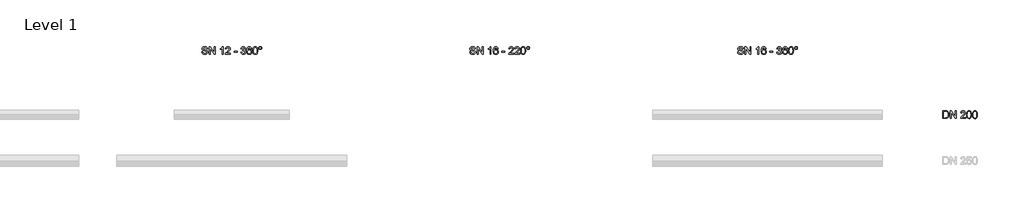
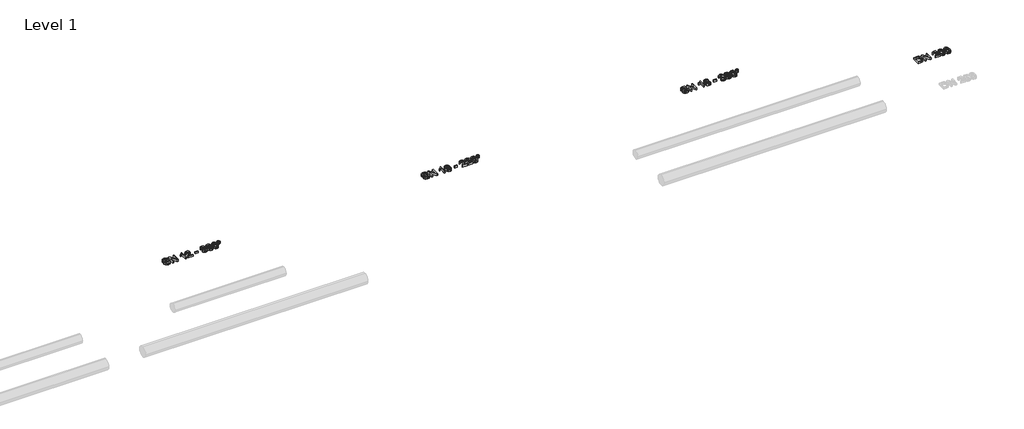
# One storey, part 10 of 10: 4 proxies.
"""IFC4 building model written with IfcOpenShell, lengths in millimetres."""

import ifcopenshell
import ifcopenshell.guid

model = None  # the IFC model being written
_history = None  # IfcOwnerHistory: only IFC2X3 demands one
_inside = {}  # id of a spatial element -> (the spatial element, [elements in it])
_under = {}  # id of a project, library or spatial element -> (it, [spatial elements below it])
_declared = {}  # id of a project -> (the project, [libraries it declares])
_typed = {}  # id of a type object -> (the type object, [elements of that type])
_made_of = {}  # id of a material, layer set ... -> (it, [elements and type objects made of it])


def new_model(schema):
    """Start an empty IFC model of exactly this schema.

    Asked for "IFC4X3", IfcOpenShell would pick the latest addendum, in which some entities
    have other attributes; the version numbers below select the first issue.
    IFC2X3 requires an IfcOwnerHistory on every rooted entity: one is made here for all.
    """
    global model, _history
    if schema == "IFC4X3":
        model = ifcopenshell.file(schema_version=(4, 3, 0, 0))
    else:
        model = ifcopenshell.file(schema=schema)
    _inside.clear()
    _under.clear()
    _declared.clear()
    _typed.clear()
    _made_of.clear()
    _history = None
    if model.schema == "IFC2X3":
        org = make("IfcOrganization", Name="unknown")
        user = make(
            "IfcPersonAndOrganization",
            ThePerson=make("IfcPerson", FamilyName="unknown"),
            TheOrganization=org,
        )
        app = make(
            "IfcApplication",
            ApplicationDeveloper=org,
            Version="unknown",
            ApplicationFullName="unknown",
            ApplicationIdentifier="unknown",
        )
        _history = make(
            "IfcOwnerHistory",
            OwningUser=user,
            OwningApplication=app,
            ChangeAction="ADDED",
            CreationDate=0,
        )
    return model


def make(cls, **values):
    """One entity of the class cls with the attributes given. An attribute that is None is left unset."""
    return model.create_entity(
        cls, **{name: value for name, value in values.items() if value is not None}
    )


def rooted(cls, **values):
    """An entity with a GlobalId (a new one), such as an element, a storey or a relation."""
    return make(cls, GlobalId=ifcopenshell.guid.new(), OwnerHistory=_history, **values)


def si_unit(unit_type, name, prefix=None):
    """IfcSIUnit, for example si_unit("LENGTHUNIT", "METRE", prefix="MILLI")."""
    return make("IfcSIUnit", UnitType=unit_type, Prefix=prefix, Name=name)


def assignment(units):
    """IfcUnitAssignment: the units of a project."""
    return None if units is None else make("IfcUnitAssignment", Units=units)


def point(xyz):
    """IfcCartesianPoint."""
    return None if xyz is None else make("IfcCartesianPoint", Coordinates=xyz)


def direction(xyz):
    """IfcDirection."""
    return None if xyz is None else make("IfcDirection", DirectionRatios=xyz)


def frame(location, z_axis=None, x_axis=None):
    """IfcAxis2Placement3D, a coordinate frame: its origin and axes. An axis left out is left unset."""
    return make(
        "IfcAxis2Placement3D",
        Location=point(location),
        Axis=direction(z_axis),
        RefDirection=direction(x_axis),
    )


def origin():
    """The frame at (0, 0, 0) with its axes left unset."""
    return frame((0.0, 0.0, 0.0))


def origin_with_axes():
    """The frame at (0, 0, 0) with the z axis (0, 0, 1) and the x axis (1, 0, 0) written out."""
    return frame((0.0, 0.0, 0.0), z_axis=(0.0, 0.0, 1.0), x_axis=(1.0, 0.0, 0.0))


def place(relative_to, where):
    """IfcLocalPlacement: puts the frame where relative to a parent placement (None: the world)."""
    return make(
        "IfcLocalPlacement", PlacementRelTo=relative_to, RelativePlacement=where
    )


def context(
    kind, dimensions, precision=None, world=None, true_north=None, identifier=None
):
    """IfcGeometricRepresentationContext, for example the 3D "Model" context."""
    return make(
        "IfcGeometricRepresentationContext",
        ContextIdentifier=identifier,
        ContextType=kind,
        CoordinateSpaceDimension=dimensions,
        Precision=precision,
        WorldCoordinateSystem=world,
        TrueNorth=true_north,
    )


def project(units=None, contexts=None):
    """IfcProject with its units and contexts."""
    return rooted(
        "IfcProject",
        Name="project",
        RepresentationContexts=contexts,
        UnitsInContext=assignment(units),
    )


def spatial(cls, under=None, at=None, **own):
    """A site, building, storey or space (cls), placed at a placement, below another one or the project."""
    s = rooted(cls, ObjectPlacement=at, **own)
    if under is not None:
        _under.setdefault(under.id(), (under, []))[1].append(s)
    return s


def polyline(points):
    """IfcPolyline through the points."""
    return make("IfcPolyline", Points=[point(p) for p in points])


def outline(outer, holes=None, kind="AREA"):
    """IfcArbitraryClosedProfileDef: a profile drawn as a closed curve; with holes, ...WithVoids."""
    if holes is None:
        return make("IfcArbitraryClosedProfileDef", ProfileType=kind, OuterCurve=outer)
    return make(
        "IfcArbitraryProfileDefWithVoids",
        ProfileType=kind,
        OuterCurve=outer,
        InnerCurves=holes,
    )


def extrude(swept, where, along, depth):
    """IfcExtrudedAreaSolid: the profile swept, set in the frame where, extruded along a direction by depth."""
    return make(
        "IfcExtrudedAreaSolid",
        SweptArea=swept,
        Position=where,
        ExtrudedDirection=direction(along),
        Depth=depth,
    )


def shape(context_of_items, identifier, shape_type, items):
    """IfcShapeRepresentation: the items that make up one representation, for example the "Body"."""
    return make(
        "IfcShapeRepresentation",
        ContextOfItems=context_of_items,
        RepresentationIdentifier=identifier,
        RepresentationType=shape_type,
        Items=items,
    )


def made_of(thing, what):
    """Note that an element or type object is made of a material, layer set ...; save() writes the relation."""
    if what is not None:
        _made_of.setdefault(what.id(), (what, []))[1].append(thing)
    return thing


def element(
    cls,
    number,
    at=None,
    inside=None,
    cuts=None,
    type_object=None,
    material=None,
    context=None,
    identifier="Body",
    shape_type=None,
    held_by="IfcProductDefinitionShape",
    body=None,
    shapes=None,
    **own,
):
    """One element of the class cls, such as IfcWall. Its Tag is "e" and its number.

    at: its placement. inside: the storey or other place that contains it. cuts: it is an
    opening in that element (IfcRelVoidsElement). A single representation is given by context,
    identifier, shape_type and body (its items); several are given by shapes. held_by: the class
    of the entity that holds the representations. save() writes the other relations.
    """
    e = rooted(cls, Tag="e%d" % number, ObjectPlacement=at, **own)
    if body is not None:
        shapes = [shape(context, identifier, shape_type, body)]
    if shapes is not None:
        e.Representation = make(held_by, Representations=shapes)
    if inside is not None:
        _inside.setdefault(inside.id(), (inside, []))[1].append(e)
    if cuts is not None:
        rooted(
            "IfcRelVoidsElement", RelatingBuildingElement=cuts, RelatedOpeningElement=e
        )
    if type_object is not None:
        _typed.setdefault(type_object.id(), (type_object, []))[1].append(e)
    return made_of(e, material)


def aggregate(whole, parts):
    """IfcRelAggregates: a whole, such as a stair, and the parts it consists of."""
    return rooted("IfcRelAggregates", RelatingObject=whole, RelatedObjects=parts)


def save(model, path):
    """Write the relations noted so far, then the file.

    IfcRelAggregates (storeys below a building ...), IfcRelContainedInSpatialStructure (elements
    in a storey), IfcRelDefinesByType, IfcRelAssociatesMaterial and IfcRelDeclares: one each for
    every whole, place, type object, material and project.
    """
    for whole, parts in _under.values():
        aggregate(whole, parts)
    for where, things in _inside.values():
        rooted(
            "IfcRelContainedInSpatialStructure",
            RelatedElements=things,
            RelatingStructure=where,
        )
    for kind, things in _typed.values():
        rooted("IfcRelDefinesByType", RelatedObjects=things, RelatingType=kind)
    for what, things in _made_of.values():
        rooted("IfcRelAssociatesMaterial", RelatedObjects=things, RelatingMaterial=what)
    for by, libraries in _declared.values():
        rooted("IfcRelDeclares", RelatingContext=by, RelatedDefinitions=libraries)
    model.write(path)


model = new_model("IFC4")

# Units and contexts
model_context = context("Model", 3, world=origin())
ifc_project = project(units=[si_unit("LENGTHUNIT", "METRE", prefix="MILLI")], contexts=[model_context])

# Site, building, storey
site = spatial("IfcSite", under=ifc_project)
building = spatial("IfcBuilding", under=site)
storey = spatial("IfcBuildingStorey", under=building, Name="Level 1", Elevation=0.0)

# Proxies
placement = place(None, origin())
element("IfcBuildingElementProxy", 1, Name="200mm Arial", ObjectType="200mm Arial", at=placement, inside=storey, context=model_context, shape_type="SweptSolid", body=[
    extrude(outline(polyline([(62180.9483219, 2231.0128426), (62206.0623994, 2231.0128426), (62214.1558033, 2205.8742396), (62222.2859954, 2196.983758), (62233.9233292, 2189.9817374), (62248.1480997, 2185.4383947), (62264.0406019, 2183.9239472), (62290.2828509, 2188.5102094), (62307.2299481, 2201.1162991), (62312.797229, 2217.9652945), (62308.6278997, 2233.6370675), (62302.2758039, 2239.8358791), (62291.5581751, 2245.0414093), (62254.9907048, 2254.6308667), (62215.6273313, 2267.0162272), (62203.1254748, 2275.4652503), (62194.2656501, 2285.7046325), (62188.9865435, 2297.5136446), (62187.2268413, 2310.6715573), (62189.4034764, 2325.3807057), (62195.9333818, 2339.0965728), (62206.6448793, 2350.7216438), (62221.3662904, 2359.1584042), (62239.0368889, 2364.2903581), (62258.5959483, 2366.0010093), (62279.7859513, 2364.2106503), (62298.3272038, 2358.8395732), (62313.5575184, 2349.9981425), (62324.8147075, 2337.796723), (62331.9393554, 2322.9956041), (62334.7720468, 2306.3550752), (62309.6579693, 2306.3550752), (62305.0471816, 2321.3401351), (62295.4331988, 2332.1558658), (62280.4113507, 2338.7041653), (62259.576967, 2340.8869318), (62238.252074, 2338.7286908), (62223.6226333, 2332.2539676), (62215.1613474, 2322.725824), (62212.3409188, 2311.4073212), (62214.3397443, 2301.7565502), (62220.3362208, 2293.9942401), (62234.5119404, 2287.0535332), (62261.3428006, 2279.9656734), (62305.7829456, 2267.3595837), (62320.0996866, 2258.2483729), (62330.0876827, 2247.0034466), (62335.9554006, 2233.7474321), (62337.9113065, 2218.6029566), (62335.661095, 2203.121256), (62328.9104604, 2188.5592603), (62317.9353142, 2176.026747), (62303.0115679, 2166.6334934), (62285.0650579, 2160.7657756), (62265.0216205, 2158.8098696), (62240.4164464, 2160.9190598), (62220.1645426, 2167.2466301), (62204.0329171, 2177.8171061), (62191.788578, 2192.6550132), (62183.9281661, 2210.7302819), (62180.9483219, 2231.0128426)])), origin_with_axes(), (0.0, 0.0, 1.0), 50.0),
    extrude(outline(polyline([(62375.5824228, 2161.9491293), (62375.5824228, 2362.8617496), (62402.4623339, 2362.8617496), (62507.4313299, 2203.6914731), (62507.4313299, 2362.8617496), (62532.5454074, 2362.8617496), (62532.5454074, 2161.9491293), (62505.6654963, 2161.9491293), (62400.6965003, 2321.1684569), (62400.6965003, 2161.9491293), (62375.5824228, 2161.9491293)])), origin_with_axes(), (0.0, 0.0, 1.0), 50.0),
    extrude(outline(polyline([(62739.7365471, 2161.9491293), (62714.6224696, 2161.9491293), (62714.6224696, 2318.5197065), (62690.8327672, 2301.5726092), (62664.3943145, 2288.8929431), (62664.3943145, 2312.6335946), (62701.2070395, 2336.1289913), (62714.6776519, 2349.7038369), (62723.5497393, 2362.8617496), (62739.7365471, 2362.8617496), (62739.7365471, 2161.9491293)])), origin_with_axes(), (0.0, 0.0, 1.0), 50.0),
    extrude(outline(polyline([(62928.0921286, 2187.0632069), (62928.0921286, 2161.9491293), (62796.2432216, 2161.9491293), (62798.9410229, 2179.2641086), (62814.1958629, 2205.9232905), (62845.6375108, 2235.0350191), (62888.9985353, 2276.8754646), (62897.1287274, 2291.2964388), (62899.8387914, 2305.3250056), (62897.2820115, 2317.9004385), (62889.6116719, 2328.3544185), (62877.821054, 2335.3993587), (62862.9034391, 2337.7476721), (62847.2377975, 2335.454541), (62835.0670348, 2328.5751477), (62827.2127542, 2317.6490524), (62824.4965588, 2303.2158155), (62799.3824813, 2306.3550752), (62805.4709283, 2330.6475496), (62818.6349723, 2348.3917245), (62838.1879004, 2359.2442434), (62863.4429993, 2362.8617496), (62888.8820393, 2358.8395732), (62908.3981792, 2346.7730437), (62920.8141965, 2328.746826), (62924.9528689, 2306.8455845), (62920.4892341, 2283.0313567), (62905.6513269, 2258.4077885), (62869.6724678, 2223.9985592), (62840.7814684, 2199.8409748), (62829.450703, 2187.0632069), (62928.0921286, 2187.0632069)])), origin_with_axes(), (0.0, 0.0, 1.0), 50.0),
    extrude(outline(polyline([(63025.4091791, 2221.5950635), (63025.4091791, 2246.709141), (63103.8906714, 2246.709141), (63103.8906714, 2221.5950635), (63025.4091791, 2221.5950635)])), origin_with_axes(), (0.0, 0.0, 1.0), 50.0),
    extrude(outline(polyline([(63204.3469815, 2215.3165441), (63229.4610591, 2218.4558038), (63235.0835222, 2202.6736662), (63243.3179476, 2192.0173511), (63254.5690053, 2185.9472982), (63269.2413655, 2183.9239472), (63286.4582429, 2186.7075876), (63299.7510456, 2195.0585089), (63308.2491197, 2207.5174458), (63311.0818111, 2222.6251331), (63308.2736452, 2236.9663995), (63299.8491475, 2248.5976019), (63287.095905, 2256.3047297), (63271.3015047, 2258.8737723), (63253.6922198, 2256.1269201), (63256.488123, 2281.2409976), (63260.5102995, 2280.946692), (63275.5566731, 2282.7493138), (63289.0088914, 2288.1571792), (63298.5002468, 2297.3051781), (63301.664032, 2310.3282007), (63299.3709009, 2321.1745882), (63292.4915076, 2329.9730993), (63281.994608, 2335.8040289), (63268.848958, 2337.7476721), (63255.6787826, 2335.7856348), (63244.9121029, 2329.8995229), (63237.0516909, 2320.0893363), (63232.6003188, 2306.3550752), (63207.4862412, 2309.4943349), (63214.8806693, 2332.0455012), (63228.038582, 2348.8822338), (63246.0402743, 2359.3668707), (63267.9660412, 2362.8617496), (63283.7543102, 2361.1388356), (63298.2549922, 2355.9700936), (63310.4809372, 2347.815376), (63319.4449951, 2337.1345354), (63324.9448309, 2324.8288827), (63326.7781095, 2311.7997287), (63325.0368014, 2299.6596229), (63319.8128771, 2288.6476885), (63311.1799129, 2279.2666976), (63299.2114854, 2272.0194223), (63314.9323093, 2265.6673265), (63326.5819058, 2254.8515959), (63333.7923929, 2240.1608415), (63336.1958886, 2222.1836747), (63331.3888972, 2197.7072593), (63316.967923, 2177.2530203), (63295.2015716, 2163.4206573), (63268.3584487, 2158.8098696), (63244.078237, 2162.746207), (63224.3107111, 2174.555219), (63210.5641873, 2192.618225), (63204.3469815, 2215.3165441)])), origin_with_axes(), (0.0, 0.0, 1.0), 50.0),
    extrude(outline(polyline([(63486.8803538, 2309.4943349), (63461.7662763, 2306.3550752), (63452.2503954, 2327.2998234), (63440.8583162, 2335.1357099), (63427.0872669, 2337.7476721), (63404.425736, 2331.6653564), (63394.9895628, 2322.057505), (63387.282435, 2308.8321473), (63382.0769048, 2290.1253478), (63380.1455243, 2264.0731712), (63390.2193596, 2275.8270009), (63402.2920204, 2284.1104772), (63415.6890564, 2289.0217018), (63429.7360173, 2290.6587767), (63452.9371084, 2286.1828791), (63472.4103287, 2272.7551863), (63485.6172923, 2252.2396337), (63490.0196135, 2226.5001568), (63487.9472116, 2208.5168586), (63481.7300059, 2191.8456728), (63471.8830312, 2177.7067415), (63458.9213222, 2167.3202065), (63443.4334902, 2160.9374539), (63426.0081464, 2158.8098696), (63397.5156858, 2164.4507269), (63374.8234981, 2181.3732987), (63366.1644756, 2194.4821604), (63359.9794596, 2211.2453167), (63355.0314468, 2255.7345126), (63360.5251512, 2305.7542013), (63367.3922818, 2324.8319484), (63377.0062646, 2339.9549641), (63387.4265221, 2349.9766828), (63399.50838, 2357.1350532), (63428.6568967, 2362.8617496), (63450.6930282, 2359.3178198), (63468.3391013, 2348.6860301), (63480.6999363, 2331.8002465), (63486.8803538, 2309.4943349)]), holes=[polyline([(63380.1455243, 2226.8925642), (63385.9580598, 2205.1384756), (63401.4091036, 2189.3440752), (63424.0461091, 2183.9239472), (63440.6191929, 2186.7321131), (63453.6483469, 2195.1566108), (63462.0912387, 2208.4003626), (63464.905536, 2225.6662909), (63462.1280269, 2242.2393748), (63453.7954997, 2254.8761213), (63440.5456165, 2262.8775547), (63423.0160395, 2265.5446992), (63406.4674811, 2262.8775547), (63392.6289867, 2254.8761213), (63383.2663899, 2242.5459431), (63380.1455243, 2226.8925642)])]), origin_with_axes(), (0.0, 0.0, 1.0), 50.0),
    extrude(outline(polyline([(63511.9944314, 2260.7867587), (63513.8399727, 2292.9457765), (63519.3765967, 2318.5932829), (63528.5491212, 2338.1216855), (63541.3023637, 2351.9233917), (63557.7282947, 2360.1271601), (63577.9188849, 2362.8617496), (63593.3944542, 2361.2430689), (63607.2513427, 2356.3870265), (63618.8396255, 2348.483695), (63627.5093779, 2337.7231466), (63639.2816017, 2307.9982814), (63643.8433384, 2260.7867587), (63642.0161912, 2228.811682), (63636.5347495, 2203.2254892), (63627.4174074, 2183.6786925), (63614.682559, 2169.821804), (63598.2198397, 2161.5628532), (63577.9188849, 2158.8098696), (63551.8237887, 2163.5923356), (63532.0072119, 2177.9397334), (63523.2516204, 2193.0688805), (63516.9976265, 2211.919767), (63511.9944314, 2260.7867587)]), holes=[polyline([(63537.1085089, 2260.8358096), (63540.0515649, 2221.3314147), (63548.8807328, 2198.4675487), (63562.0263827, 2187.5598476), (63577.9188849, 2183.9239472), (63593.8113871, 2187.5721103), (63606.9570371, 2198.5165997), (63615.7862049, 2221.3927284), (63618.7292609, 2260.8358096), (63615.8843068, 2299.4511564), (63607.3494445, 2322.492832), (63594.22832, 2333.9339621), (63577.6245793, 2337.7476721), (63561.9037554, 2334.3876832), (63549.2731402, 2324.3077165), (63540.1496667, 2299.8313011), (63537.1085089, 2260.8358096)])]), origin_with_axes(), (0.0, 0.0, 1.0), 50.0),
    extrude(outline(polyline([(63672.0966757, 2328.378944), (63674.861922, 2342.8612318), (63683.157661, 2355.0136004), (63695.3284237, 2363.2541571), (63709.7187411, 2366.0010093), (63724.2746053, 2363.2541571), (63736.4514994, 2355.0136004), (63744.6920561, 2342.8612318), (63747.4389083, 2328.378944), (63744.673662, 2313.9150502), (63736.377923, 2301.719762), (63724.1826348, 2293.4240231), (63709.7187411, 2290.6587767), (63695.3284237, 2293.405629), (63683.157661, 2301.6461856), (63674.861922, 2313.8230797), (63672.0966757, 2328.378944)]), holes=[polyline([(63687.7929741, 2328.329893), (63689.4055236, 2319.8808699), (63694.2431718, 2312.7807474), (63701.3616884, 2307.9614932), (63709.8168429, 2306.3550752), (63718.198421, 2307.9614932), (63725.2924122, 2312.7807474), (63730.1300604, 2319.8808699), (63731.7426098, 2328.329893), (63730.1300604, 2336.7789162), (63725.2924122, 2343.8790387), (63718.198421, 2348.6982928), (63709.8168429, 2350.3047109), (63701.3616884, 2348.6982928), (63694.2431718, 2343.8790387), (63689.4055236, 2336.7789162), (63687.7929741, 2328.329893)])]), origin_with_axes(), (0.0, 0.0, 1.0), 50.0),
])
element("IfcBuildingElementProxy", 2, Name="200mm Arial", ObjectType="200mm Arial", at=placement, inside=storey, context=model_context, shape_type="SweptSolid", body=[
    extrude(outline(polyline([(69180.9483219, 2231.0128426), (69206.0623994, 2231.0128426), (69214.1558033, 2205.8742396), (69222.2859954, 2196.983758), (69233.9233292, 2189.9817374), (69248.1480997, 2185.4383947), (69264.0406019, 2183.9239472), (69290.2828509, 2188.5102094), (69307.2299481, 2201.1162991), (69312.797229, 2217.9652945), (69308.6278997, 2233.6370675), (69302.2758039, 2239.8358791), (69291.5581751, 2245.0414093), (69254.9907048, 2254.6308667), (69215.6273313, 2267.0162272), (69203.1254748, 2275.4652503), (69194.2656501, 2285.7046325), (69188.9865435, 2297.5136446), (69187.2268413, 2310.6715573), (69189.4034764, 2325.3807057), (69195.9333818, 2339.0965728), (69206.6448793, 2350.7216438), (69221.3662904, 2359.1584042), (69239.0368889, 2364.2903581), (69258.5959483, 2366.0010093), (69279.7859513, 2364.2106503), (69298.3272038, 2358.8395732), (69313.5575184, 2349.9981425), (69324.8147075, 2337.796723), (69331.9393554, 2322.9956041), (69334.7720468, 2306.3550752), (69309.6579693, 2306.3550752), (69305.0471816, 2321.3401351), (69295.4331988, 2332.1558658), (69280.4113507, 2338.7041653), (69259.576967, 2340.8869318), (69238.252074, 2338.7286908), (69223.6226333, 2332.2539676), (69215.1613474, 2322.725824), (69212.3409188, 2311.4073212), (69214.3397443, 2301.7565502), (69220.3362208, 2293.9942401), (69234.5119404, 2287.0535332), (69261.3428006, 2279.9656734), (69305.7829456, 2267.3595837), (69320.0996866, 2258.2483729), (69330.0876827, 2247.0034466), (69335.9554006, 2233.7474321), (69337.9113065, 2218.6029566), (69335.661095, 2203.121256), (69328.9104604, 2188.5592603), (69317.9353142, 2176.026747), (69303.0115679, 2166.6334934), (69285.0650579, 2160.7657756), (69265.0216205, 2158.8098696), (69240.4164464, 2160.9190598), (69220.1645426, 2167.2466301), (69204.0329171, 2177.8171061), (69191.788578, 2192.6550132), (69183.9281661, 2210.7302819), (69180.9483219, 2231.0128426)])), origin_with_axes(), (0.0, 0.0, 1.0), 50.0),
    extrude(outline(polyline([(69375.5824228, 2161.9491293), (69375.5824228, 2362.8617496), (69402.4623339, 2362.8617496), (69507.4313299, 2203.6914731), (69507.4313299, 2362.8617496), (69532.5454074, 2362.8617496), (69532.5454074, 2161.9491293), (69505.6654963, 2161.9491293), (69400.6965003, 2321.1684569), (69400.6965003, 2161.9491293), (69375.5824228, 2161.9491293)])), origin_with_axes(), (0.0, 0.0, 1.0), 50.0),
    extrude(outline(polyline([(69739.7365471, 2161.9491293), (69714.6224696, 2161.9491293), (69714.6224696, 2318.5197065), (69690.8327672, 2301.5726092), (69664.3943145, 2288.8929431), (69664.3943145, 2312.6335946), (69701.2070395, 2336.1289913), (69714.6776519, 2349.7038369), (69723.5497393, 2362.8617496), (69739.7365471, 2362.8617496), (69739.7365471, 2161.9491293)])), origin_with_axes(), (0.0, 0.0, 1.0), 50.0),
    extrude(outline(polyline([(69928.0921286, 2309.4943349), (69902.9780511, 2306.3550752), (69893.4621702, 2327.2998234), (69882.070091, 2335.1357099), (69868.2990417, 2337.7476721), (69845.6375108, 2331.6653564), (69836.2013376, 2322.057505), (69828.4942098, 2308.8321473), (69823.2886796, 2290.1253478), (69821.3572991, 2264.0731712), (69831.4311344, 2275.8270009), (69843.5037952, 2284.1104772), (69856.9008312, 2289.0217018), (69870.947792, 2290.6587767), (69894.1488832, 2286.1828791), (69913.6221035, 2272.7551863), (69926.8290671, 2252.2396337), (69931.2313883, 2226.5001568), (69929.1589864, 2208.5168586), (69922.9417807, 2191.8456728), (69913.094806, 2177.7067415), (69900.133097, 2167.3202065), (69884.645265, 2160.9374539), (69867.2199212, 2158.8098696), (69838.7274606, 2164.4507269), (69816.0352729, 2181.3732987), (69807.3762504, 2194.4821604), (69801.1912344, 2211.2453167), (69796.2432216, 2255.7345126), (69801.736926, 2305.7542013), (69808.6040566, 2324.8319484), (69818.2180394, 2339.9549641), (69828.6382969, 2349.9766828), (69840.7201548, 2357.1350532), (69869.8686715, 2362.8617496), (69891.904803, 2359.3178198), (69909.5508761, 2348.6860301), (69921.9117111, 2331.8002465), (69928.0921286, 2309.4943349)]), holes=[polyline([(69821.3572991, 2226.8925642), (69827.1698346, 2205.1384756), (69842.6208784, 2189.3440752), (69865.2578839, 2183.9239472), (69881.8309677, 2186.7321131), (69894.8601217, 2195.1566108), (69903.3030135, 2208.4003626), (69906.1173108, 2225.6662909), (69903.3398017, 2242.2393748), (69895.0072745, 2254.8761213), (69881.7573913, 2262.8775547), (69864.2278143, 2265.5446992), (69847.6792559, 2262.8775547), (69833.8407615, 2254.8761213), (69824.4781647, 2242.5459431), (69821.3572991, 2226.8925642)])]), origin_with_axes(), (0.0, 0.0, 1.0), 50.0),
    extrude(outline(polyline([(70025.4091791, 2221.5950635), (70025.4091791, 2246.709141), (70103.8906714, 2246.709141), (70103.8906714, 2221.5950635), (70025.4091791, 2221.5950635)])), origin_with_axes(), (0.0, 0.0, 1.0), 50.0),
    extrude(outline(polyline([(70333.0566289, 2187.0632069), (70333.0566289, 2161.9491293), (70201.2077219, 2161.9491293), (70203.9055231, 2179.2641086), (70219.1603632, 2205.9232905), (70250.6020111, 2235.0350191), (70293.9630356, 2276.8754646), (70302.0932277, 2291.2964388), (70304.8032917, 2305.3250056), (70302.2465118, 2317.9004385), (70294.5761722, 2328.3544185), (70282.7855543, 2335.3993587), (70267.8679394, 2337.7476721), (70252.2022977, 2335.454541), (70240.0315351, 2328.5751477), (70232.1772545, 2317.6490524), (70229.4610591, 2303.2158155), (70204.3469815, 2306.3550752), (70210.4354286, 2330.6475496), (70223.5994726, 2348.3917245), (70243.1524007, 2359.2442434), (70268.4074996, 2362.8617496), (70293.8465396, 2358.8395732), (70313.3626794, 2346.7730437), (70325.7786968, 2328.746826), (70329.9173692, 2306.8455845), (70325.4537344, 2283.0313567), (70310.6158272, 2258.4077885), (70274.6369681, 2223.9985592), (70245.7459687, 2199.8409748), (70234.4152033, 2187.0632069), (70333.0566289, 2187.0632069)])), origin_with_axes(), (0.0, 0.0, 1.0), 50.0),
    extrude(outline(polyline([(70486.8803538, 2187.0632069), (70486.8803538, 2161.9491293), (70355.0314468, 2161.9491293), (70357.7292481, 2179.2641086), (70372.9840881, 2205.9232905), (70404.425736, 2235.0350191), (70447.7867605, 2276.8754646), (70455.9169526, 2291.2964388), (70458.6270166, 2305.3250056), (70456.0702367, 2317.9004385), (70448.3998971, 2328.3544185), (70436.6092792, 2335.3993587), (70421.6916643, 2337.7476721), (70406.0260227, 2335.454541), (70393.85526, 2328.5751477), (70386.0009794, 2317.6490524), (70383.284784, 2303.2158155), (70358.1707065, 2306.3550752), (70364.2591535, 2330.6475496), (70377.4231975, 2348.3917245), (70396.9761256, 2359.2442434), (70422.2312246, 2362.8617496), (70447.6702645, 2358.8395732), (70467.1864044, 2346.7730437), (70479.6024217, 2328.746826), (70483.7410941, 2306.8455845), (70479.2774593, 2283.0313567), (70464.4395521, 2258.4077885), (70428.460693, 2223.9985592), (70399.5696937, 2199.8409748), (70388.2389282, 2187.0632069), (70486.8803538, 2187.0632069)])), origin_with_axes(), (0.0, 0.0, 1.0), 50.0),
    extrude(outline(polyline([(70511.9944314, 2260.7867587), (70513.8399727, 2292.9457765), (70519.3765967, 2318.5932829), (70528.5491212, 2338.1216855), (70541.3023637, 2351.9233917), (70557.7282947, 2360.1271601), (70577.9188849, 2362.8617496), (70593.3944542, 2361.2430689), (70607.2513427, 2356.3870265), (70618.8396255, 2348.483695), (70627.5093779, 2337.7231466), (70639.2816017, 2307.9982814), (70643.8433384, 2260.7867587), (70642.0161912, 2228.811682), (70636.5347495, 2203.2254892), (70627.4174074, 2183.6786925), (70614.682559, 2169.821804), (70598.2198397, 2161.5628532), (70577.9188849, 2158.8098696), (70551.8237887, 2163.5923356), (70532.0072119, 2177.9397334), (70523.2516204, 2193.0688805), (70516.9976265, 2211.919767), (70511.9944314, 2260.7867587)]), holes=[polyline([(70537.1085089, 2260.8358096), (70540.0515649, 2221.3314147), (70548.8807328, 2198.4675487), (70562.0263827, 2187.5598476), (70577.9188849, 2183.9239472), (70593.8113871, 2187.5721103), (70606.9570371, 2198.5165997), (70615.7862049, 2221.3927284), (70618.7292609, 2260.8358096), (70615.8843068, 2299.4511564), (70607.3494445, 2322.492832), (70594.22832, 2333.9339621), (70577.6245793, 2337.7476721), (70561.9037554, 2334.3876832), (70549.2731402, 2324.3077165), (70540.1496667, 2299.8313011), (70537.1085089, 2260.8358096)])]), origin_with_axes(), (0.0, 0.0, 1.0), 50.0),
    extrude(outline(polyline([(70672.0966757, 2328.378944), (70674.861922, 2342.8612318), (70683.157661, 2355.0136004), (70695.3284237, 2363.2541571), (70709.7187411, 2366.0010093), (70724.2746053, 2363.2541571), (70736.4514994, 2355.0136004), (70744.6920561, 2342.8612318), (70747.4389083, 2328.378944), (70744.673662, 2313.9150502), (70736.377923, 2301.719762), (70724.1826348, 2293.4240231), (70709.7187411, 2290.6587767), (70695.3284237, 2293.405629), (70683.157661, 2301.6461856), (70674.861922, 2313.8230797), (70672.0966757, 2328.378944)]), holes=[polyline([(70687.7929741, 2328.329893), (70689.4055236, 2319.8808699), (70694.2431718, 2312.7807474), (70701.3616884, 2307.9614932), (70709.8168429, 2306.3550752), (70718.198421, 2307.9614932), (70725.2924122, 2312.7807474), (70730.1300604, 2319.8808699), (70731.7426098, 2328.329893), (70730.1300604, 2336.7789162), (70725.2924122, 2343.8790387), (70718.198421, 2348.6982928), (70709.8168429, 2350.3047109), (70701.3616884, 2348.6982928), (70694.2431718, 2343.8790387), (70689.4055236, 2336.7789162), (70687.7929741, 2328.329893)])]), origin_with_axes(), (0.0, 0.0, 1.0), 50.0),
])
element("IfcBuildingElementProxy", 3, Name="200mm Arial", ObjectType="200mm Arial", at=placement, inside=storey, context=model_context, shape_type="SweptSolid", body=[
    extrude(outline(polyline([(76180.9483219, 2231.0128426), (76206.0623994, 2231.0128426), (76214.1558033, 2205.8742396), (76222.2859954, 2196.983758), (76233.9233292, 2189.9817374), (76248.1480997, 2185.4383947), (76264.0406019, 2183.9239472), (76290.2828509, 2188.5102094), (76307.2299481, 2201.1162991), (76312.797229, 2217.9652945), (76308.6278997, 2233.6370675), (76302.2758039, 2239.8358791), (76291.5581751, 2245.0414093), (76254.9907048, 2254.6308667), (76215.6273313, 2267.0162272), (76203.1254748, 2275.4652503), (76194.2656501, 2285.7046325), (76188.9865435, 2297.5136446), (76187.2268413, 2310.6715573), (76189.4034764, 2325.3807057), (76195.9333818, 2339.0965728), (76206.6448793, 2350.7216438), (76221.3662904, 2359.1584042), (76239.0368889, 2364.2903581), (76258.5959483, 2366.0010093), (76279.7859513, 2364.2106503), (76298.3272038, 2358.8395732), (76313.5575184, 2349.9981425), (76324.8147075, 2337.796723), (76331.9393554, 2322.9956041), (76334.7720468, 2306.3550752), (76309.6579693, 2306.3550752), (76305.0471816, 2321.3401351), (76295.4331988, 2332.1558658), (76280.4113507, 2338.7041653), (76259.576967, 2340.8869318), (76238.252074, 2338.7286908), (76223.6226333, 2332.2539676), (76215.1613474, 2322.725824), (76212.3409188, 2311.4073212), (76214.3397443, 2301.7565502), (76220.3362208, 2293.9942401), (76234.5119404, 2287.0535332), (76261.3428006, 2279.9656734), (76305.7829456, 2267.3595837), (76320.0996866, 2258.2483729), (76330.0876827, 2247.0034466), (76335.9554006, 2233.7474321), (76337.9113065, 2218.6029566), (76335.661095, 2203.121256), (76328.9104604, 2188.5592603), (76317.9353142, 2176.026747), (76303.0115679, 2166.6334934), (76285.0650579, 2160.7657756), (76265.0216205, 2158.8098696), (76240.4164464, 2160.9190598), (76220.1645426, 2167.2466301), (76204.0329171, 2177.8171061), (76191.788578, 2192.6550132), (76183.9281661, 2210.7302819), (76180.9483219, 2231.0128426)])), origin_with_axes(), (0.0, 0.0, 1.0), 50.0),
    extrude(outline(polyline([(76375.5824228, 2161.9491293), (76375.5824228, 2362.8617496), (76402.4623339, 2362.8617496), (76507.4313299, 2203.6914731), (76507.4313299, 2362.8617496), (76532.5454074, 2362.8617496), (76532.5454074, 2161.9491293), (76505.6654963, 2161.9491293), (76400.6965003, 2321.1684569), (76400.6965003, 2161.9491293), (76375.5824228, 2161.9491293)])), origin_with_axes(), (0.0, 0.0, 1.0), 50.0),
    extrude(outline(polyline([(76739.7365471, 2161.9491293), (76714.6224696, 2161.9491293), (76714.6224696, 2318.5197065), (76690.8327672, 2301.5726092), (76664.3943145, 2288.8929431), (76664.3943145, 2312.6335946), (76701.2070395, 2336.1289913), (76714.6776519, 2349.7038369), (76723.5497393, 2362.8617496), (76739.7365471, 2362.8617496), (76739.7365471, 2161.9491293)])), origin_with_axes(), (0.0, 0.0, 1.0), 50.0),
    extrude(outline(polyline([(76928.0921286, 2309.4943349), (76902.9780511, 2306.3550752), (76893.4621702, 2327.2998234), (76882.070091, 2335.1357099), (76868.2990417, 2337.7476721), (76845.6375108, 2331.6653564), (76836.2013376, 2322.057505), (76828.4942098, 2308.8321473), (76823.2886796, 2290.1253478), (76821.3572991, 2264.0731712), (76831.4311344, 2275.8270009), (76843.5037952, 2284.1104772), (76856.9008312, 2289.0217018), (76870.947792, 2290.6587767), (76894.1488832, 2286.1828791), (76913.6221035, 2272.7551863), (76926.8290671, 2252.2396337), (76931.2313883, 2226.5001568), (76929.1589864, 2208.5168586), (76922.9417807, 2191.8456728), (76913.094806, 2177.7067415), (76900.133097, 2167.3202065), (76884.645265, 2160.9374539), (76867.2199212, 2158.8098696), (76838.7274606, 2164.4507269), (76816.0352729, 2181.3732987), (76807.3762504, 2194.4821604), (76801.1912344, 2211.2453167), (76796.2432216, 2255.7345126), (76801.736926, 2305.7542013), (76808.6040566, 2324.8319484), (76818.2180394, 2339.9549641), (76828.6382969, 2349.9766828), (76840.7201548, 2357.1350532), (76869.8686715, 2362.8617496), (76891.904803, 2359.3178198), (76909.5508761, 2348.6860301), (76921.9117111, 2331.8002465), (76928.0921286, 2309.4943349)]), holes=[polyline([(76821.3572991, 2226.8925642), (76827.1698346, 2205.1384756), (76842.6208784, 2189.3440752), (76865.2578839, 2183.9239472), (76881.8309677, 2186.7321131), (76894.8601217, 2195.1566108), (76903.3030135, 2208.4003626), (76906.1173108, 2225.6662909), (76903.3398017, 2242.2393748), (76895.0072745, 2254.8761213), (76881.7573913, 2262.8775547), (76864.2278143, 2265.5446992), (76847.6792559, 2262.8775547), (76833.8407615, 2254.8761213), (76824.4781647, 2242.5459431), (76821.3572991, 2226.8925642)])]), origin_with_axes(), (0.0, 0.0, 1.0), 50.0),
    extrude(outline(polyline([(77025.4091791, 2221.5950635), (77025.4091791, 2246.709141), (77103.8906714, 2246.709141), (77103.8906714, 2221.5950635), (77025.4091791, 2221.5950635)])), origin_with_axes(), (0.0, 0.0, 1.0), 50.0),
    extrude(outline(polyline([(77204.3469815, 2215.3165441), (77229.4610591, 2218.4558038), (77235.0835222, 2202.6736662), (77243.3179476, 2192.0173511), (77254.5690053, 2185.9472982), (77269.2413655, 2183.9239472), (77286.4582429, 2186.7075876), (77299.7510456, 2195.0585089), (77308.2491197, 2207.5174458), (77311.0818111, 2222.6251331), (77308.2736452, 2236.9663995), (77299.8491475, 2248.5976019), (77287.095905, 2256.3047297), (77271.3015047, 2258.8737723), (77253.6922198, 2256.1269201), (77256.488123, 2281.2409976), (77260.5102995, 2280.946692), (77275.5566731, 2282.7493138), (77289.0088914, 2288.1571792), (77298.5002468, 2297.3051781), (77301.664032, 2310.3282007), (77299.3709009, 2321.1745882), (77292.4915076, 2329.9730993), (77281.994608, 2335.8040289), (77268.848958, 2337.7476721), (77255.6787826, 2335.7856348), (77244.9121029, 2329.8995229), (77237.0516909, 2320.0893363), (77232.6003188, 2306.3550752), (77207.4862412, 2309.4943349), (77214.8806693, 2332.0455012), (77228.038582, 2348.8822338), (77246.0402743, 2359.3668707), (77267.9660412, 2362.8617496), (77283.7543102, 2361.1388356), (77298.2549922, 2355.9700936), (77310.4809372, 2347.815376), (77319.4449951, 2337.1345354), (77324.9448309, 2324.8288827), (77326.7781095, 2311.7997287), (77325.0368014, 2299.6596229), (77319.8128771, 2288.6476885), (77311.1799129, 2279.2666976), (77299.2114854, 2272.0194223), (77314.9323093, 2265.6673265), (77326.5819058, 2254.8515959), (77333.7923929, 2240.1608415), (77336.1958886, 2222.1836747), (77331.3888972, 2197.7072593), (77316.967923, 2177.2530203), (77295.2015716, 2163.4206573), (77268.3584487, 2158.8098696), (77244.078237, 2162.746207), (77224.3107111, 2174.555219), (77210.5641873, 2192.618225), (77204.3469815, 2215.3165441)])), origin_with_axes(), (0.0, 0.0, 1.0), 50.0),
    extrude(outline(polyline([(77486.8803538, 2309.4943349), (77461.7662763, 2306.3550752), (77452.2503954, 2327.2998234), (77440.8583162, 2335.1357099), (77427.0872669, 2337.7476721), (77404.425736, 2331.6653564), (77394.9895628, 2322.057505), (77387.282435, 2308.8321473), (77382.0769048, 2290.1253478), (77380.1455243, 2264.0731712), (77390.2193596, 2275.8270009), (77402.2920204, 2284.1104772), (77415.6890564, 2289.0217018), (77429.7360173, 2290.6587767), (77452.9371084, 2286.1828791), (77472.4103287, 2272.7551863), (77485.6172923, 2252.2396337), (77490.0196135, 2226.5001568), (77487.9472116, 2208.5168586), (77481.7300059, 2191.8456728), (77471.8830312, 2177.7067415), (77458.9213222, 2167.3202065), (77443.4334902, 2160.9374539), (77426.0081464, 2158.8098696), (77397.5156858, 2164.4507269), (77374.8234981, 2181.3732987), (77366.1644756, 2194.4821604), (77359.9794596, 2211.2453167), (77355.0314468, 2255.7345126), (77360.5251512, 2305.7542013), (77367.3922818, 2324.8319484), (77377.0062646, 2339.9549641), (77387.4265221, 2349.9766828), (77399.50838, 2357.1350532), (77428.6568967, 2362.8617496), (77450.6930282, 2359.3178198), (77468.3391013, 2348.6860301), (77480.6999363, 2331.8002465), (77486.8803538, 2309.4943349)]), holes=[polyline([(77380.1455243, 2226.8925642), (77385.9580598, 2205.1384756), (77401.4091036, 2189.3440752), (77424.0461091, 2183.9239472), (77440.6191929, 2186.7321131), (77453.6483469, 2195.1566108), (77462.0912387, 2208.4003626), (77464.905536, 2225.6662909), (77462.1280269, 2242.2393748), (77453.7954997, 2254.8761213), (77440.5456165, 2262.8775547), (77423.0160395, 2265.5446992), (77406.4674811, 2262.8775547), (77392.6289867, 2254.8761213), (77383.2663899, 2242.5459431), (77380.1455243, 2226.8925642)])]), origin_with_axes(), (0.0, 0.0, 1.0), 50.0),
    extrude(outline(polyline([(77511.9944314, 2260.7867587), (77513.8399727, 2292.9457765), (77519.3765967, 2318.5932829), (77528.5491212, 2338.1216855), (77541.3023637, 2351.9233917), (77557.7282947, 2360.1271601), (77577.9188849, 2362.8617496), (77593.3944542, 2361.2430689), (77607.2513427, 2356.3870265), (77618.8396255, 2348.483695), (77627.5093779, 2337.7231466), (77639.2816017, 2307.9982814), (77643.8433384, 2260.7867587), (77642.0161912, 2228.811682), (77636.5347495, 2203.2254892), (77627.4174074, 2183.6786925), (77614.682559, 2169.821804), (77598.2198397, 2161.5628532), (77577.9188849, 2158.8098696), (77551.8237887, 2163.5923356), (77532.0072119, 2177.9397334), (77523.2516204, 2193.0688805), (77516.9976265, 2211.919767), (77511.9944314, 2260.7867587)]), holes=[polyline([(77537.1085089, 2260.8358096), (77540.0515649, 2221.3314147), (77548.8807328, 2198.4675487), (77562.0263827, 2187.5598476), (77577.9188849, 2183.9239472), (77593.8113871, 2187.5721103), (77606.9570371, 2198.5165997), (77615.7862049, 2221.3927284), (77618.7292609, 2260.8358096), (77615.8843068, 2299.4511564), (77607.3494445, 2322.492832), (77594.22832, 2333.9339621), (77577.6245793, 2337.7476721), (77561.9037554, 2334.3876832), (77549.2731402, 2324.3077165), (77540.1496667, 2299.8313011), (77537.1085089, 2260.8358096)])]), origin_with_axes(), (0.0, 0.0, 1.0), 50.0),
    extrude(outline(polyline([(77672.0966757, 2328.378944), (77674.861922, 2342.8612318), (77683.157661, 2355.0136004), (77695.3284237, 2363.2541571), (77709.7187411, 2366.0010093), (77724.2746053, 2363.2541571), (77736.4514994, 2355.0136004), (77744.6920561, 2342.8612318), (77747.4389083, 2328.378944), (77744.673662, 2313.9150502), (77736.377923, 2301.719762), (77724.1826348, 2293.4240231), (77709.7187411, 2290.6587767), (77695.3284237, 2293.405629), (77683.157661, 2301.6461856), (77674.861922, 2313.8230797), (77672.0966757, 2328.378944)]), holes=[polyline([(77687.7929741, 2328.329893), (77689.4055236, 2319.8808699), (77694.2431718, 2312.7807474), (77701.3616884, 2307.9614932), (77709.8168429, 2306.3550752), (77718.198421, 2307.9614932), (77725.2924122, 2312.7807474), (77730.1300604, 2319.8808699), (77731.7426098, 2328.329893), (77730.1300604, 2336.7789162), (77725.2924122, 2343.8790387), (77718.198421, 2348.6982928), (77709.8168429, 2350.3047109), (77701.3616884, 2348.6982928), (77694.2431718, 2343.8790387), (77689.4055236, 2336.7789162), (77687.7929741, 2328.329893)])]), origin_with_axes(), (0.0, 0.0, 1.0), 50.0),
])
element("IfcBuildingElementProxy", 4, Name="200mm Arial", ObjectType="200mm Arial", at=placement, inside=storey, context=model_context, shape_type="SweptSolid", body=[
    extrude(outline(polyline([(81539.3076926, 486.050427), (81539.3076926, 686.9630473), (81608.6166605, 686.9630473), (81644.4728923, 684.0690423), (81660.4880218, 678.4894987), (81674.0015538, 669.697119), (81687.8952305, 654.393228), (81697.7912562, 635.3614662), (81703.7141563, 612.9697154), (81705.6884563, 587.5858577), (81700.3419047, 547.0452618), (81686.6076435, 517.7863805), (81668.2625947, 499.563959), (81644.2521631, 489.4839923), (81611.9521239, 486.050427), (81539.3076926, 486.050427)]), holes=[polyline([(81564.4217702, 511.1645046), (81608.8619152, 511.1645046), (81641.1864798, 514.7942736), (81659.8258342, 525.0459185), (81668.5507689, 535.9168315), (81675.1051998, 549.9883178), (81679.207084, 567.3216911), (81680.5743788, 587.9782652), (81677.8949716, 615.3486856), (81669.85675, 635.5576699), (81657.9802929, 649.4390838), (81643.7861793, 657.8267933), (81608.1752021, 661.8489698), (81564.4217702, 661.8489698), (81564.4217702, 511.1645046)])]), origin_with_axes(), (0.0, 0.0, 1.0), 50.0),
    extrude(outline(polyline([(81740.2203129, 486.050427), (81740.2203129, 686.9630473), (81767.100224, 686.9630473), (81872.06922, 527.7927708), (81872.06922, 686.9630473), (81897.1832975, 686.9630473), (81897.1832975, 486.050427), (81870.3033864, 486.050427), (81765.3343905, 645.2697546), (81765.3343905, 486.050427), (81740.2203129, 486.050427)])), origin_with_axes(), (0.0, 0.0, 1.0), 50.0),
    extrude(outline(polyline([(82138.9062938, 511.1645046), (82138.9062938, 486.050427), (82007.0573868, 486.050427), (82009.7551881, 503.3654063), (82025.0100281, 530.0245882), (82056.451676, 559.1363168), (82099.8127005, 600.9767623), (82107.9428926, 615.3977365), (82110.6529566, 629.4263033), (82108.0961767, 642.0017362), (82100.4258371, 652.4557162), (82088.6352192, 659.5006564), (82073.7176043, 661.8489698), (82058.0519627, 659.5558387), (82045.8812, 652.6764454), (82038.0269194, 641.7503501), (82035.310724, 627.3171132), (82010.1966465, 630.4563729), (82016.2850935, 654.7488473), (82029.4491375, 672.4930222), (82049.0020656, 683.3455411), (82074.2571645, 686.9630473), (82099.6962045, 682.9408709), (82119.2123444, 670.8743414), (82131.6283617, 652.8481237), (82135.7670341, 630.9468822), (82131.3033993, 607.1326544), (82116.4654921, 582.5090862), (82080.486633, 548.0998569), (82051.5956336, 523.9422725), (82040.2648682, 511.1645046), (82138.9062938, 511.1645046)])), origin_with_axes(), (0.0, 0.0, 1.0), 50.0),
    extrude(outline(polyline([(82164.0203714, 584.8880564), (82165.8659127, 617.0470742), (82171.4025367, 642.6945806), (82180.5750612, 662.2229832), (82193.3283037, 676.0246894), (82209.7542347, 684.2284578), (82229.9448249, 686.9630473), (82245.4203942, 685.3443666), (82259.2772827, 680.4883242), (82270.8655655, 672.5849927), (82279.5353179, 661.8244443), (82291.3075417, 632.0995791), (82295.8692784, 584.8880564), (82294.0421312, 552.9129797), (82288.5606895, 527.3267869), (82279.4433474, 507.7799902), (82266.708499, 493.9231017), (82250.2457797, 485.664151), (82229.9448249, 482.9111674), (82203.8497287, 487.6936333), (82184.0331519, 502.0410311), (82175.2775604, 517.1701782), (82169.0235665, 536.0210647), (82164.0203714, 584.8880564)]), holes=[polyline([(82189.1344489, 584.9371073), (82192.0775049, 545.4327124), (82200.9066728, 522.5688464), (82214.0523227, 511.6611453), (82229.9448249, 508.0252449), (82245.8373271, 511.673408), (82258.9829771, 522.6178974), (82267.8121449, 545.4940261), (82270.7552009, 584.9371073), (82267.9102468, 623.5524541), (82259.3753845, 646.5941297), (82246.25426, 658.0352598), (82229.6505193, 661.8489698), (82213.9296954, 658.4889809), (82201.2990802, 648.4090143), (82192.1756067, 623.9325988), (82189.1344489, 584.9371073)])]), origin_with_axes(), (0.0, 0.0, 1.0), 50.0),
    extrude(outline(polyline([(82317.8440963, 584.8880564), (82319.6896376, 617.0470742), (82325.2262617, 642.6945806), (82334.3987861, 662.2229832), (82347.1520286, 676.0246894), (82363.5779597, 684.2284578), (82383.7685498, 686.9630473), (82399.2441191, 685.3443666), (82413.1010076, 680.4883242), (82424.6892904, 672.5849927), (82433.3590428, 661.8244443), (82445.1312666, 632.0995791), (82449.6930034, 584.8880564), (82447.8658561, 552.9129797), (82442.3844144, 527.3267869), (82433.2670723, 507.7799902), (82420.5322239, 493.9231017), (82404.0695046, 485.664151), (82383.7685498, 482.9111674), (82357.6734536, 487.6936333), (82337.8568768, 502.0410311), (82329.1012853, 517.1701782), (82322.8472914, 536.0210647), (82317.8440963, 584.8880564)]), holes=[polyline([(82342.9581738, 584.9371073), (82345.9012298, 545.4327124), (82354.7303977, 522.5688464), (82367.8760476, 511.6611453), (82383.7685498, 508.0252449), (82399.661052, 511.673408), (82412.806702, 522.6178974), (82421.6358699, 545.4940261), (82424.5789258, 584.9371073), (82421.7339717, 623.5524541), (82413.1991094, 646.5941297), (82400.0779849, 658.0352598), (82383.4742442, 661.8489698), (82367.7534203, 658.4889809), (82355.1228051, 648.4090143), (82345.9993317, 623.9325988), (82342.9581738, 584.9371073)])]), origin_with_axes(), (0.0, 0.0, 1.0), 50.0),
])

save(model, "model.ifc")
